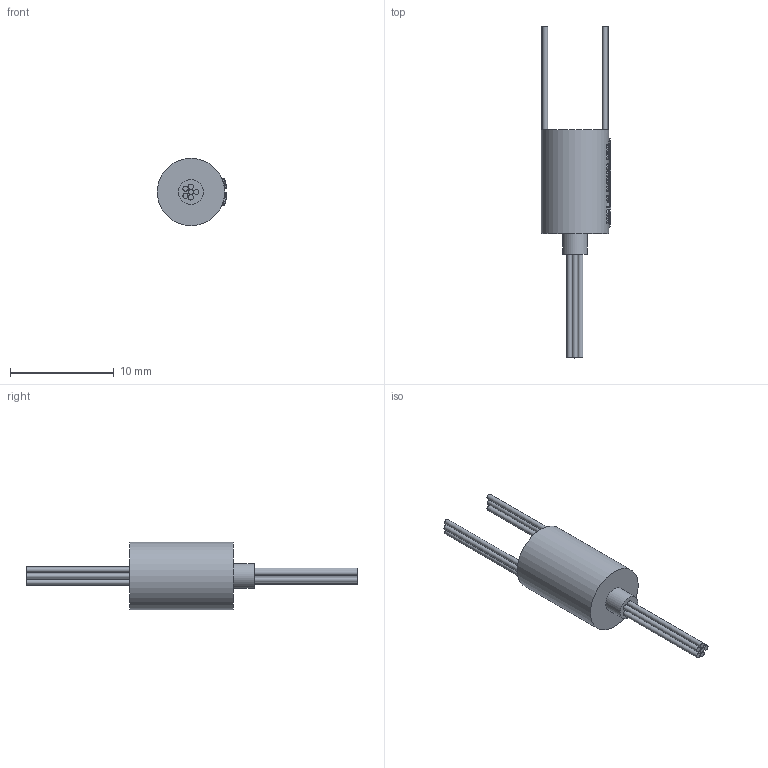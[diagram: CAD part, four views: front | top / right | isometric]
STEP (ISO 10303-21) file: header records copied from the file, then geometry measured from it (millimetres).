
FILE_DESCRIPTION(/* description */ (''),/* implementation_level */ '2;1');
FILE_NAME(/* name */ 'YM07-06.stp',/* time_stamp */ '2025-09-05T09:29:19+08:00',/* author */ (''),/* organization */ (''),/* preprocessor_version */ 'ST-DEVELOPER v16.7',/* originating_system */ 'SIEMENS PLM Software NX 12.0',/* authorisation */ '');
FILE_SCHEMA (('AUTOMOTIVE_DESIGN { 1 0 10303 214 3 1 1 1 }'));
Length unit declared in the file: millimetre
Products named in the file (1): Admi30D0F0663apu
Bounding box: 6.7 x 32 x 6.5 mm (x, y, z)
Volume: 365.4 mm3; surface area: 496.4 mm2
Topology: 1 solids, 1 shells, 710 faces, 1950 edges, 1300 vertices
Faces by surface type: extrusion 450, plane 201, cylinder 30, bspline 29
Full cylindrical faces by diameter (mm): 0.5 x12, 2.4 x1, 6.5 x1
Entity records: 30237 total; most frequent: CARTESIAN_POINT 15429, ORIENTED_EDGE 3872, B_SPLINE_CURVE_WITH_KNOTS 2116, EDGE_CURVE 1936, DIRECTION 1342, VERTEX_POINT 1300, EDGE_LOOP 782, ADVANCED_FACE 710
